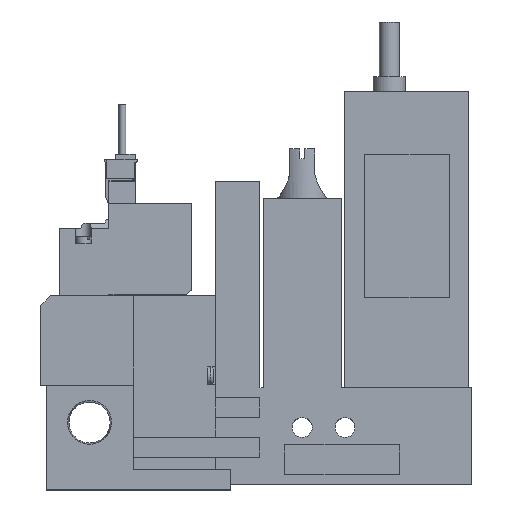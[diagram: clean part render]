
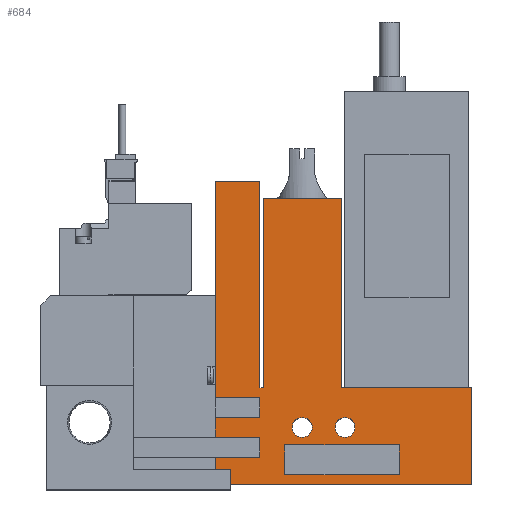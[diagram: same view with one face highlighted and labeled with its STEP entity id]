
A CAD part, top view. The second image highlights one B-rep face of the part: STEP entity #684.
In plain terms, the highlighted planar face has unit normal (0, 0, 1).
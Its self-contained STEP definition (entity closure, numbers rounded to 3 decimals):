
#684=ADVANCED_FACE('',(#1455,#1456,#1457,#1458),#1459,.T.);
#1455=FACE_OUTER_BOUND('',#2348,.T.);
#1456=FACE_BOUND('',#2349,.T.);
#1457=FACE_BOUND('',#2350,.T.);
#1458=FACE_BOUND('',#2351,.T.);
#1459=PLANE('',#2352);
#2348=EDGE_LOOP('',(#5092,#5093,#5094,#5095,#5096,#5097,#5098,#5099,#5100,#5101,#5102,#5103,#5104,#5105,#5106,#5107,#5108,#5109));
#2349=EDGE_LOOP('',(#5110,#5111,#5112,#5113));
#2350=EDGE_LOOP('',(#5114));
#2351=EDGE_LOOP('',(#5115));
#2352=AXIS2_PLACEMENT_3D('',#5116,#5117,#5118);
#5092=ORIENTED_EDGE('',*,*,#6475,.T.);
#5093=ORIENTED_EDGE('',*,*,#6452,.T.);
#5094=ORIENTED_EDGE('',*,*,#6447,.T.);
#5095=ORIENTED_EDGE('',*,*,#6449,.T.);
#5096=ORIENTED_EDGE('',*,*,#6417,.T.);
#5097=ORIENTED_EDGE('',*,*,#6510,.T.);
#5098=ORIENTED_EDGE('',*,*,#6440,.T.);
#5099=ORIENTED_EDGE('',*,*,#6508,.T.);
#5100=ORIENTED_EDGE('',*,*,#6426,.T.);
#5101=ORIENTED_EDGE('',*,*,#6514,.T.);
#5102=ORIENTED_EDGE('',*,*,#6500,.T.);
#5103=ORIENTED_EDGE('',*,*,#6497,.T.);
#5104=ORIENTED_EDGE('',*,*,#6494,.T.);
#5105=ORIENTED_EDGE('',*,*,#6490,.T.);
#5106=ORIENTED_EDGE('',*,*,#6487,.T.);
#5107=ORIENTED_EDGE('',*,*,#6484,.T.);
#5108=ORIENTED_EDGE('',*,*,#6481,.T.);
#5109=ORIENTED_EDGE('',*,*,#6478,.T.);
#5110=ORIENTED_EDGE('',*,*,#6463,.T.);
#5111=ORIENTED_EDGE('',*,*,#6464,.T.);
#5112=ORIENTED_EDGE('',*,*,#6459,.T.);
#5113=ORIENTED_EDGE('',*,*,#6461,.T.);
#5114=ORIENTED_EDGE('',*,*,#6433,.T.);
#5115=ORIENTED_EDGE('',*,*,#6431,.T.);
#5116=CARTESIAN_POINT('',(0.0,0.0,10.0));
#5117=DIRECTION('',(0.0,0.0,1.0));
#5118=DIRECTION('',(1.0,0.0,0.0));
#6417=EDGE_CURVE('',#7914,#7912,#7915,.T.);
#6426=EDGE_CURVE('',#7926,#7930,#7932,.T.);
#6431=EDGE_CURVE('',#7940,#7940,#7941,.T.);
#6433=EDGE_CURVE('',#7944,#7944,#7945,.T.);
#6440=EDGE_CURVE('',#7954,#7956,#7958,.T.);
#6447=EDGE_CURVE('',#7967,#7969,#7971,.T.);
#6449=EDGE_CURVE('',#7969,#7914,#7973,.T.);
#6452=EDGE_CURVE('',#7974,#7967,#7978,.T.);
#6459=EDGE_CURVE('',#7987,#7989,#7991,.T.);
#6461=EDGE_CURVE('',#7989,#7992,#7994,.T.);
#6463=EDGE_CURVE('',#7992,#7995,#7997,.T.);
#6464=EDGE_CURVE('',#7995,#7987,#7998,.T.);
#6475=EDGE_CURVE('',#8016,#7974,#8017,.T.);
#6478=EDGE_CURVE('',#8021,#8016,#8022,.T.);
#6481=EDGE_CURVE('',#8026,#8021,#8027,.T.);
#6484=EDGE_CURVE('',#8031,#8026,#8032,.T.);
#6487=EDGE_CURVE('',#8036,#8031,#8037,.T.);
#6490=EDGE_CURVE('',#8041,#8036,#8042,.T.);
#6494=EDGE_CURVE('',#8047,#8041,#8048,.T.);
#6497=EDGE_CURVE('',#8052,#8047,#8053,.T.);
#6500=EDGE_CURVE('',#8057,#8052,#8058,.T.);
#6508=EDGE_CURVE('',#7956,#7926,#8068,.T.);
#6510=EDGE_CURVE('',#7912,#7954,#8070,.T.);
#6514=EDGE_CURVE('',#7930,#8057,#8075,.T.);
#7912=VERTEX_POINT('',#10289);
#7914=VERTEX_POINT('',#10292);
#7915=LINE('',#10293,#10294);
#7926=VERTEX_POINT('',#10310);
#7930=VERTEX_POINT('',#10316);
#7932=LINE('',#10319,#10320);
#7940=VERTEX_POINT('',#10331);
#7941=CIRCLE('',#10332,2.0);
#7944=VERTEX_POINT('',#10335);
#7945=CIRCLE('',#10336,2.0);
#7954=VERTEX_POINT('',#10349);
#7956=VERTEX_POINT('',#10352);
#7958=LINE('',#10355,#10356);
#7967=VERTEX_POINT('',#10369);
#7969=VERTEX_POINT('',#10372);
#7971=LINE('',#10375,#10376);
#7973=LINE('',#10379,#10380);
#7974=VERTEX_POINT('',#10381);
#7978=LINE('',#10387,#10388);
#7987=VERTEX_POINT('',#10401);
#7989=VERTEX_POINT('',#10404);
#7991=LINE('',#10407,#10408);
#7992=VERTEX_POINT('',#10409);
#7994=LINE('',#10412,#10413);
#7995=VERTEX_POINT('',#10414);
#7997=LINE('',#10417,#10418);
#7998=LINE('',#10419,#10420);
#8016=VERTEX_POINT('',#10448);
#8017=LINE('',#10449,#10450);
#8021=VERTEX_POINT('',#10456);
#8022=LINE('',#10457,#10458);
#8026=VERTEX_POINT('',#10464);
#8027=LINE('',#10465,#10466);
#8031=VERTEX_POINT('',#10472);
#8032=LINE('',#10473,#10474);
#8036=VERTEX_POINT('',#10480);
#8037=LINE('',#10481,#10482);
#8041=VERTEX_POINT('',#10488);
#8042=LINE('',#10489,#10490);
#8047=VERTEX_POINT('',#10497);
#8048=LINE('',#10498,#10499);
#8052=VERTEX_POINT('',#10505);
#8053=LINE('',#10506,#10507);
#8057=VERTEX_POINT('',#10513);
#8058=LINE('',#10514,#10515);
#8068=LINE('',#10532,#10533);
#8070=LINE('',#10536,#10537);
#8075=LINE('',#10545,#10546);
#10289=CARTESIAN_POINT('',(35.1,9.5,10.0));
#10292=CARTESIAN_POINT('',(35.1,13.5,10.0));
#10293=CARTESIAN_POINT('',(35.1,0.0,10.0));
#10294=VECTOR('',#11867,1.0);
#10310=CARTESIAN_POINT('',(35.1,5.5,10.0));
#10316=CARTESIAN_POINT('',(35.1,0.0,10.0));
#10319=CARTESIAN_POINT('',(35.1,0.0,10.0));
#10320=VECTOR('',#11876,1.0);
#10331=CARTESIAN_POINT('',(63.2,11.5,10.0));
#10332=AXIS2_PLACEMENT_3D('',#11883,#11884,#11885);
#10335=CARTESIAN_POINT('',(54.6,11.5,10.0));
#10336=AXIS2_PLACEMENT_3D('',#11889,#11890,#11891);
#10349=CARTESIAN_POINT('',(44.1,9.5,10.0));
#10352=CARTESIAN_POINT('',(44.1,5.5,10.0));
#10355=CARTESIAN_POINT('',(44.1,0.0,10.0));
#10356=VECTOR('',#11898,1.0);
#10369=CARTESIAN_POINT('',(44.1,17.5,10.0));
#10372=CARTESIAN_POINT('',(44.1,13.5,10.0));
#10375=CARTESIAN_POINT('',(44.1,0.0,10.0));
#10376=VECTOR('',#11905,1.0);
#10379=CARTESIAN_POINT('',(0.0,13.5,10.0));
#10380=VECTOR('',#11907,1.0);
#10381=CARTESIAN_POINT('',(35.1,17.5,10.0));
#10387=CARTESIAN_POINT('',(0.0,17.5,10.0));
#10388=VECTOR('',#11910,1.0);
#10401=CARTESIAN_POINT('',(72.1,8.0,10.0));
#10404=CARTESIAN_POINT('',(72.1,2.0,10.0));
#10407=CARTESIAN_POINT('',(72.1,0.0,10.0));
#10408=VECTOR('',#11917,1.0);
#10409=CARTESIAN_POINT('',(49.1,2.0,10.0));
#10412=CARTESIAN_POINT('',(0.0,2.0,10.0));
#10413=VECTOR('',#11919,1.0);
#10414=CARTESIAN_POINT('',(49.1,8.0,10.0));
#10417=CARTESIAN_POINT('',(49.1,0.0,10.0));
#10418=VECTOR('',#11921,1.0);
#10419=CARTESIAN_POINT('',(0.0,8.0,10.0));
#10420=VECTOR('',#11922,1.0);
#10448=CARTESIAN_POINT('',(35.1,61.0,10.0));
#10449=CARTESIAN_POINT('',(35.1,61.0,10.0));
#10450=VECTOR('',#11933,1.0);
#10456=CARTESIAN_POINT('',(44.1,61.0,10.0));
#10457=CARTESIAN_POINT('',(44.1,61.0,10.0));
#10458=VECTOR('',#11936,1.0);
#10464=CARTESIAN_POINT('',(44.1,19.5,10.0));
#10465=CARTESIAN_POINT('',(44.1,19.5,10.0));
#10466=VECTOR('',#11939,1.0);
#10472=CARTESIAN_POINT('',(44.75,19.5,10.0));
#10473=CARTESIAN_POINT('',(44.75,19.5,10.0));
#10474=VECTOR('',#11942,1.0);
#10480=CARTESIAN_POINT('',(44.75,57.5,10.0));
#10481=CARTESIAN_POINT('',(44.75,57.5,10.0));
#10482=VECTOR('',#11945,1.0);
#10488=CARTESIAN_POINT('',(60.45,57.5,10.0));
#10489=CARTESIAN_POINT('',(60.45,57.5,10.0));
#10490=VECTOR('',#11948,1.0);
#10497=CARTESIAN_POINT('',(60.45,19.5,10.0));
#10498=CARTESIAN_POINT('',(60.45,19.5,10.0));
#10499=VECTOR('',#11954,1.0);
#10505=CARTESIAN_POINT('',(86.6,19.5,10.0));
#10506=CARTESIAN_POINT('',(86.6,19.5,10.0));
#10507=VECTOR('',#11957,1.0);
#10513=CARTESIAN_POINT('',(86.6,0.0,10.0));
#10514=CARTESIAN_POINT('',(86.6,0.0,10.0));
#10515=VECTOR('',#11960,1.0);
#10532=CARTESIAN_POINT('',(0.0,5.5,10.0));
#10533=VECTOR('',#11968,1.0);
#10536=CARTESIAN_POINT('',(0.0,9.5,10.0));
#10537=VECTOR('',#11970,1.0);
#10545=CARTESIAN_POINT('',(18.6,0.0,10.0));
#10546=VECTOR('',#11974,1.0);
#11867=DIRECTION('',(0.0,-1.0,0.0));
#11876=DIRECTION('',(0.0,-1.0,0.0));
#11883=CARTESIAN_POINT('',(61.2,11.5,10.0));
#11884=DIRECTION('',(0.0,0.0,-1.0));
#11885=DIRECTION('',(1.0,0.0,0.0));
#11889=CARTESIAN_POINT('',(52.6,11.5,10.0));
#11890=DIRECTION('',(0.0,0.0,-1.0));
#11891=DIRECTION('',(1.0,0.0,0.0));
#11898=DIRECTION('',(0.0,-1.0,0.0));
#11905=DIRECTION('',(0.0,-1.0,0.0));
#11907=DIRECTION('',(-1.0,0.0,0.0));
#11910=DIRECTION('',(1.0,0.0,0.0));
#11917=DIRECTION('',(0.0,-1.0,0.0));
#11919=DIRECTION('',(-1.0,0.0,0.0));
#11921=DIRECTION('',(0.0,1.0,0.0));
#11922=DIRECTION('',(1.0,0.0,0.0));
#11933=DIRECTION('',(0.0,-1.0,0.0));
#11936=DIRECTION('',(-1.0,0.0,0.0));
#11939=DIRECTION('',(0.0,1.0,0.0));
#11942=DIRECTION('',(-1.0,0.0,0.0));
#11945=DIRECTION('',(0.0,-1.0,0.0));
#11948=DIRECTION('',(-1.0,0.0,0.0));
#11954=DIRECTION('',(0.0,1.0,0.0));
#11957=DIRECTION('',(-1.0,0.0,0.0));
#11960=DIRECTION('',(0.0,1.0,0.0));
#11968=DIRECTION('',(-1.0,0.0,0.0));
#11970=DIRECTION('',(1.0,0.0,0.0));
#11974=DIRECTION('',(1.0,0.0,0.0));
